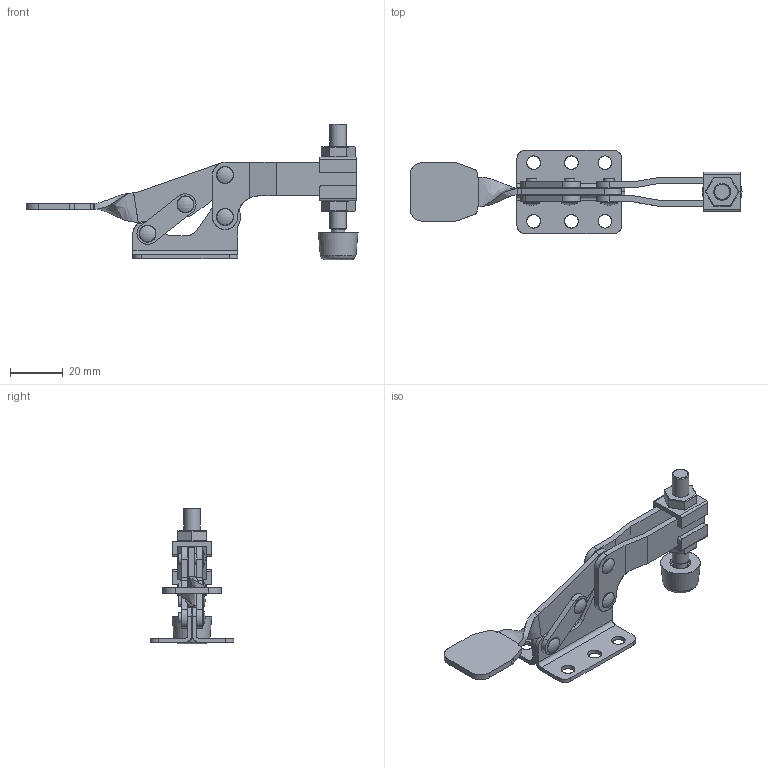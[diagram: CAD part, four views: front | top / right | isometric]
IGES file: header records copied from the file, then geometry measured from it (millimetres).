
Global section: file name: C:\T&M Tech\Carbide Tech\Work\200 Series\h-200-ss\h-200-ss.igs; native system: Unigraphics Version X V2.0; preprocessor: Unigraphics NX IGES V2.0; date: 20041216.010141; units: inch
Bounding box: 125.82 x 31.75 x 51.53 mm (x, y, z)
Surface area: 17711.4 mm2 (no closed solid volume)
Topology: 0 solids, 0 shells, 267 faces, 3754 edges, 3696 vertices
Faces by surface type: revolution 145, extrusion 118, bspline 2, offset 2
